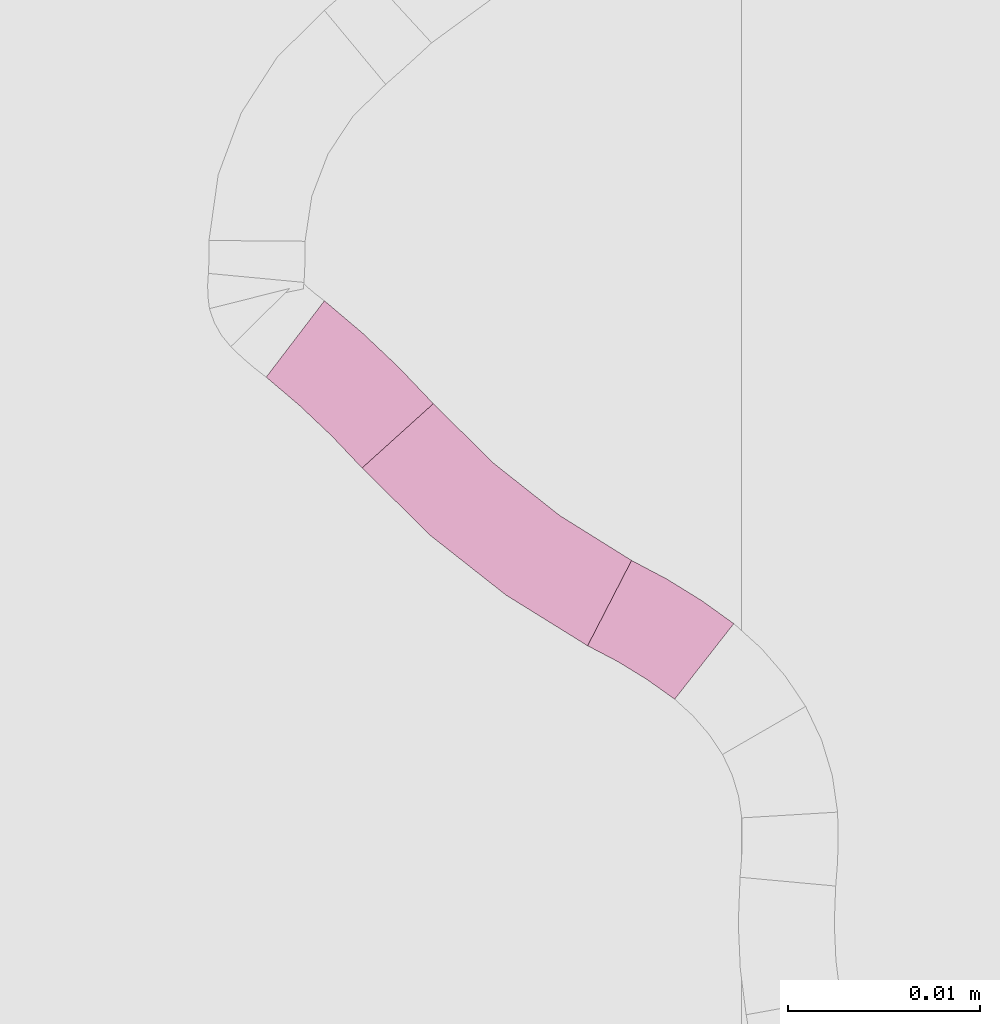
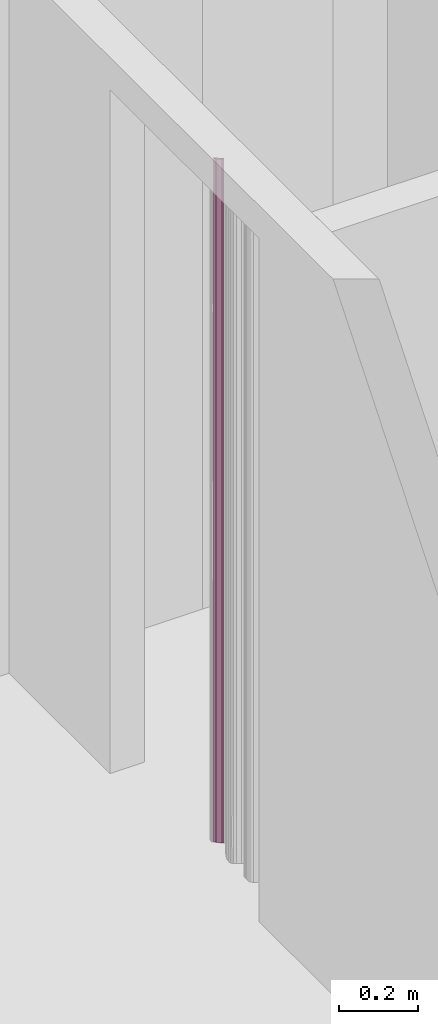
# One storey, part 219 of 418: 3 furnishings.
"""IFC2X3 building model written with IfcOpenShell, lengths in millimetres."""

from ifc_helpers import new_model, entity, si_unit, converted_unit, derived_unit, money_unit, point, direction, frame, frame_2d, origin_with_axes, place, context, subcontext, project, spatial, polyline, circle_curve, parameter, trimmed, segment, composite_curve, outline, extrude, material, type_object, element, save


model = new_model("IFC2X3")

# Units and contexts
model_context = context("Model", 3, precision=0.01, world=origin_with_axes(), true_north=direction((0.0, 1.0)))
body_context = subcontext(model_context, "Body", "Model", "MODEL_VIEW")
ifc_project = project(units=[si_unit("LENGTHUNIT", "METRE", prefix="MILLI"), si_unit("AREAUNIT", "SQUARE_METRE"), si_unit("VOLUMEUNIT", "CUBIC_METRE"), converted_unit("PLANEANGLEUNIT", "DEGREE", entity("IfcPlaneAngleMeasure", 0.0174532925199), si_unit("PLANEANGLEUNIT", "RADIAN"), dimensions=[0, 0, 0, 0, 0, 0, 0]), si_unit("SOLIDANGLEUNIT", "STERADIAN"), money_unit("EUR"), converted_unit("TIMEUNIT", "Year", entity("IfcTimeMeasure", 31556926.0), si_unit("TIMEUNIT", "SECOND"), dimensions=[0, 0, 1, 0, 0, 0, 0]), si_unit("MASSUNIT", "GRAM", prefix="KILO"), si_unit("THERMODYNAMICTEMPERATUREUNIT", "DEGREE_CELSIUS"), si_unit("LUMINOUSINTENSITYUNIT", "LUMEN"), si_unit("ENERGYUNIT", "JOULE", prefix="MEGA"), derived_unit("THERMALCONDUCTANCEUNIT", [(si_unit("POWERUNIT", "WATT"), 1), (si_unit("LENGTHUNIT", "METRE"), -1), (si_unit("THERMODYNAMICTEMPERATUREUNIT", "KELVIN"), -1)]), derived_unit("SPECIFICHEATCAPACITYUNIT", [(si_unit("ENERGYUNIT", "JOULE"), 1), (si_unit("MASSUNIT", "GRAM", prefix="KILO"), -1), (si_unit("THERMODYNAMICTEMPERATUREUNIT", "KELVIN"), -1)]), derived_unit("MASSDENSITYUNIT", [(si_unit("MASSUNIT", "GRAM", prefix="KILO"), 1), (si_unit("VOLUMEUNIT", "CUBIC_METRE"), -1)])], contexts=[model_context])

# Site, building, storey
site_placement = place(None, origin_with_axes())
site = spatial("IfcSite", under=ifc_project, at=site_placement, Name="Paldiski mnt 245/1, Tallinn, Harjumaa", CompositionType="COMPLEX")
building_placement = place(site_placement, origin_with_axes())
building = spatial("IfcBuilding", under=site, at=building_placement, Name="RKAS Hoone üldnimetus (kasutust iseloomustav) -> IFC Project Manager -> SOLIBRI", CompositionType="ELEMENT")
storey_placement = place(building_placement, origin_with_axes())
storey = spatial("IfcBuildingStorey", under=building, at=storey_placement, Name="Esimene korrus", CompositionType="ELEMENT", Elevation=0.0)

# Furnishings
ifc_material = material(Name="KON-00_GENEERILINE - KONSTRUKTSIOON")
furniture_type = type_object("IfcFurnitureType", Name="KON-00_GENEERILINE - KONSTRUKTSIOON 5", AssemblyPlace="NOTDEFINED")
furnishing_1_placement = place(storey_placement, frame((-45025.8780898, -1024.85910989, 0.0), z_axis=(0.0, 0.0, 1.0), x_axis=(-0.794212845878, 0.607639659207, 0.0)))
element("IfcFurnishingElement", 1, at=furnishing_1_placement, inside=storey, type_object=furniture_type, material=ifc_material, Name="SS-73", context=body_context, shape_type="SweptSolid", body=[
    extrude(outline(composite_curve([segment(trimmed(circle_curve(frame_2d((0.0, 25.9895354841), x_axis=(-0.00169326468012, -0.999998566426)), 30.9895354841), [point((-0.0524734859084, -4.99995557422)), parameter(0.0)], [point((6.17652834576, -4.37824031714)), parameter(11.5936371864)], True, "CARTESIAN"), True, "CONTINUOUS"), segment(polyline([(6.17652834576, -4.37824031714), (5.29433863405, 0.54496959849)]), True, "CONTINUOUS"), segment(trimmed(circle_curve(frame_2d((0.0, 25.9895354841), x_axis=(0.0, -1.0)), 25.9895354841), [point((5.29433863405, 0.54496959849)), parameter(11.7540174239)], [point((1.56319401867e-10, 0.0)), parameter(0.0)], False, "CARTESIAN"), True, "CONTINUOUS"), segment(polyline([(1.56319401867e-10, 0.0), (-0.0524734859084, -4.99995557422)]), True, "CONTINUOUS")], self_intersect=False)), origin_with_axes(), (0.0, 0.0, 1.0), 2100.0),
])
furnishing_2_placement = place(storey_placement, frame((-45042.1598001, -1012.8140858, 0.0), z_axis=(0.0, 0.0, 1.0), x_axis=(-0.669077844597, 0.74319232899, 0.0)))
element("IfcFurnishingElement", 2, at=furnishing_2_placement, inside=storey, type_object=furniture_type, material=ifc_material, Name="SS-71", context=body_context, shape_type="SweptSolid", body=[
    extrude(outline(composite_curve([segment(trimmed(circle_curve(frame_2d((0.0, 43.3120450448), x_axis=(0.000127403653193, -0.999999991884)), 48.3120450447), [point((0.00615513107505, -4.9999996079)), parameter(0.0)], [point((7.78543921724, -4.368565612)), parameter(9.26629664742)], True, "CARTESIAN"), True, "CONTINUOUS"), segment(polyline([(7.78543921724, -4.368565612), (6.85838739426, 0.54645410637)]), True, "CONTINUOUS"), segment(trimmed(circle_curve(frame_2d((0.0, 43.3120450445), x_axis=(0.0, -1.0)), 43.3120450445), [point((6.85838739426, 0.54645410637)), parameter(9.11103688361)], [point((0.0, 0.0)), parameter(0.0)], False, "CARTESIAN"), True, "CONTINUOUS"), segment(polyline([(0.0, 0.0), (0.00615513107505, -4.9999996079)]), True, "CONTINUOUS")], self_intersect=False)), origin_with_axes(), (0.0, 0.0, 1.0), 2100.0),
])
furnishing_3_placement = place(storey_placement, frame((-45042.1598001, -1012.8140858, 0.0), z_axis=(0.0, 0.0, 1.0), x_axis=(0.670807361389, -0.741631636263, 0.0)))
element("IfcFurnishingElement", 3, at=furnishing_3_placement, inside=storey, type_object=furniture_type, material=ifc_material, Name="SS-72", context=body_context, shape_type="SweptSolid", body=[
    extrude(outline(composite_curve([segment(trimmed(circle_curve(frame_2d((0.0, 44.7664520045), x_axis=(0.0, -1.0)), 44.7664520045), [point((0.0, 0.0)), parameter(0.0)], [point((14.7472235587, 2.49879744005)), parameter(19.2339266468)], True, "CARTESIAN"), True, "CONTINUOUS"), segment(polyline([(14.7472235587, 2.49879744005), (12.9865795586, 7.18029156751)]), True, "CONTINUOUS"), segment(trimmed(circle_curve(frame_2d((0.0, 44.7664520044), x_axis=(0.000138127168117, -0.99999999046)), 39.7664520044), [point((12.9865795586, 7.18029156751)), parameter(19.0528812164)], [point((0.00549282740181, 5.00000037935)), parameter(0.0)], False, "CARTESIAN"), True, "CONTINUOUS"), segment(polyline([(0.00549282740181, 5.00000037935), (0.0, 0.0)]), True, "CONTINUOUS")], self_intersect=False)), origin_with_axes(), (0.0, 0.0, 1.0), 2100.0),
])

save(model, "model.ifc")
